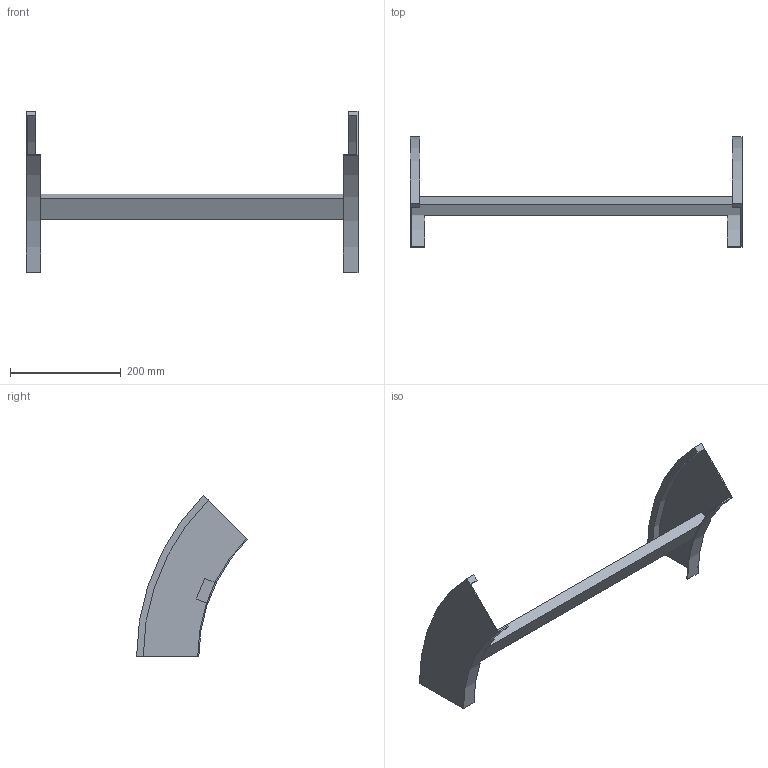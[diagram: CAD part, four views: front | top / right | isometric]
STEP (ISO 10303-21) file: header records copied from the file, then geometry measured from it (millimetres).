
FILE_DESCRIPTION (( 'STEP AP214' ), '1' );
FILE_NAME ('B2_34B3J600.step', '2025-02-21T14:53:57', ( '' ), ( '' ), 'SwSTEP 2.0', 'SolidWorks 2023', '' );
FILE_SCHEMA (( 'AUTOMOTIVE_DESIGN' ));
Length unit declared in the file: millimetre
Products named in the file (3): TRAVERSINO_600; B2_LONGH.DISCESA_45°_H112.5_R300; B2_34B3J600
Assembly tree (3 placements, depth 2):
  B2_34B3J600
    B2_LONGH.DISCESA_45°_H112.5_R300  x2
    TRAVERSINO_600
Bounding box: 600 x 200.37 x 291.68 mm (x, y, z)
Volume: 754907.1 mm3; surface area: 247824.9 mm2
Topology: 3 solids, 3 shells, 26 faces, 60 edges, 40 vertices
Faces by surface type: plane 18, cylinder 8
Entity records: 544 total; most frequent: DIRECTION 88, CARTESIAN_POINT 82, ORIENTED_EDGE 72, EDGE_CURVE 36, AXIS2_PLACEMENT_3D 30, VECTOR 28, LINE 28, VERTEX_POINT 24
